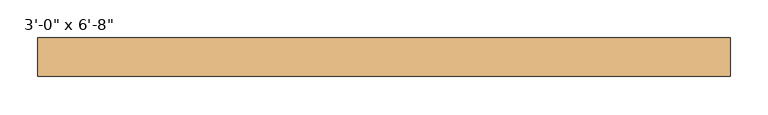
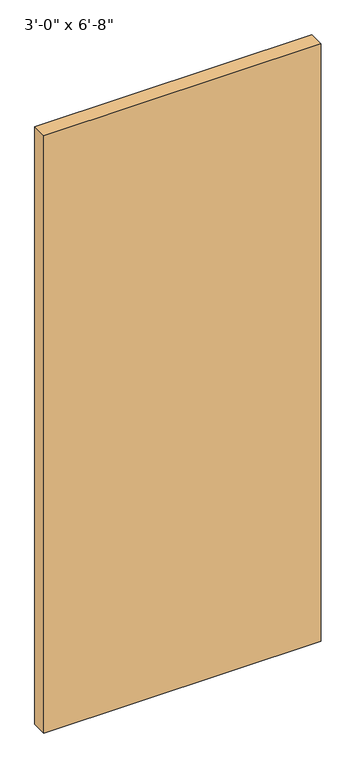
"""IFC4 building model written with IfcOpenShell, lengths in millimetres: door geometry."""

import ifcopenshell
import ifcopenshell.guid

model = None  # the IFC model being written
_history = None  # IfcOwnerHistory: only IFC2X3 demands one
_inside = {}  # id of a spatial element -> (the spatial element, [elements in it])
_under = {}  # id of a project, library or spatial element -> (it, [spatial elements below it])
_declared = {}  # id of a project -> (the project, [libraries it declares])
_typed = {}  # id of a type object -> (the type object, [elements of that type])
_made_of = {}  # id of a material, layer set ... -> (it, [elements and type objects made of it])


def new_model(schema):
    """Start an empty IFC model of exactly this schema.

    Asked for "IFC4X3", IfcOpenShell would pick the latest addendum, in which some entities
    have other attributes; the version numbers below select the first issue.
    IFC2X3 requires an IfcOwnerHistory on every rooted entity: one is made here for all.
    """
    global model, _history
    if schema == "IFC4X3":
        model = ifcopenshell.file(schema_version=(4, 3, 0, 0))
    else:
        model = ifcopenshell.file(schema=schema)
    _inside.clear()
    _under.clear()
    _declared.clear()
    _typed.clear()
    _made_of.clear()
    _history = None
    if model.schema == "IFC2X3":
        org = make("IfcOrganization", Name="unknown")
        user = make(
            "IfcPersonAndOrganization",
            ThePerson=make("IfcPerson", FamilyName="unknown"),
            TheOrganization=org,
        )
        app = make(
            "IfcApplication",
            ApplicationDeveloper=org,
            Version="unknown",
            ApplicationFullName="unknown",
            ApplicationIdentifier="unknown",
        )
        _history = make(
            "IfcOwnerHistory",
            OwningUser=user,
            OwningApplication=app,
            ChangeAction="ADDED",
            CreationDate=0,
        )
    return model


def make(cls, **values):
    """One entity of the class cls with the attributes given. An attribute that is None is left unset."""
    return model.create_entity(
        cls, **{name: value for name, value in values.items() if value is not None}
    )


def rooted(cls, **values):
    """An entity with a GlobalId (a new one), such as an element, a storey or a relation."""
    return make(cls, GlobalId=ifcopenshell.guid.new(), OwnerHistory=_history, **values)


def si_unit(unit_type, name, prefix=None):
    """IfcSIUnit, for example si_unit("LENGTHUNIT", "METRE", prefix="MILLI")."""
    return make("IfcSIUnit", UnitType=unit_type, Prefix=prefix, Name=name)


def assignment(units):
    """IfcUnitAssignment: the units of a project."""
    return None if units is None else make("IfcUnitAssignment", Units=units)


def point(xyz):
    """IfcCartesianPoint."""
    return None if xyz is None else make("IfcCartesianPoint", Coordinates=xyz)


def direction(xyz):
    """IfcDirection."""
    return None if xyz is None else make("IfcDirection", DirectionRatios=xyz)


def frame(location, z_axis=None, x_axis=None):
    """IfcAxis2Placement3D, a coordinate frame: its origin and axes. An axis left out is left unset."""
    return make(
        "IfcAxis2Placement3D",
        Location=point(location),
        Axis=direction(z_axis),
        RefDirection=direction(x_axis),
    )


def origin():
    """The frame at (0, 0, 0) with its axes left unset."""
    return frame((0.0, 0.0, 0.0))


def origin_with_axes():
    """The frame at (0, 0, 0) with the z axis (0, 0, 1) and the x axis (1, 0, 0) written out."""
    return frame((0.0, 0.0, 0.0), z_axis=(0.0, 0.0, 1.0), x_axis=(1.0, 0.0, 0.0))


def place(relative_to, where):
    """IfcLocalPlacement: puts the frame where relative to a parent placement (None: the world)."""
    return make(
        "IfcLocalPlacement", PlacementRelTo=relative_to, RelativePlacement=where
    )


def context(
    kind, dimensions, precision=None, world=None, true_north=None, identifier=None
):
    """IfcGeometricRepresentationContext, for example the 3D "Model" context."""
    return make(
        "IfcGeometricRepresentationContext",
        ContextIdentifier=identifier,
        ContextType=kind,
        CoordinateSpaceDimension=dimensions,
        Precision=precision,
        WorldCoordinateSystem=world,
        TrueNorth=true_north,
    )


def project(units=None, contexts=None):
    """IfcProject with its units and contexts."""
    return rooted(
        "IfcProject",
        Name="project",
        RepresentationContexts=contexts,
        UnitsInContext=assignment(units),
    )


def spatial(cls, under=None, at=None, **own):
    """A site, building, storey or space (cls), placed at a placement, below another one or the project."""
    s = rooted(cls, ObjectPlacement=at, **own)
    if under is not None:
        _under.setdefault(under.id(), (under, []))[1].append(s)
    return s


def polyline(points):
    """IfcPolyline through the points."""
    return make("IfcPolyline", Points=[point(p) for p in points])


def outline(outer, holes=None, kind="AREA"):
    """IfcArbitraryClosedProfileDef: a profile drawn as a closed curve; with holes, ...WithVoids."""
    if holes is None:
        return make("IfcArbitraryClosedProfileDef", ProfileType=kind, OuterCurve=outer)
    return make(
        "IfcArbitraryProfileDefWithVoids",
        ProfileType=kind,
        OuterCurve=outer,
        InnerCurves=holes,
    )


def extrude(swept, where, along, depth):
    """IfcExtrudedAreaSolid: the profile swept, set in the frame where, extruded along a direction by depth."""
    return make(
        "IfcExtrudedAreaSolid",
        SweptArea=swept,
        Position=where,
        ExtrudedDirection=direction(along),
        Depth=depth,
    )


def shape(context_of_items, identifier, shape_type, items):
    """IfcShapeRepresentation: the items that make up one representation, for example the "Body"."""
    return make(
        "IfcShapeRepresentation",
        ContextOfItems=context_of_items,
        RepresentationIdentifier=identifier,
        RepresentationType=shape_type,
        Items=items,
    )


def source(mapping_origin, context_of_items, identifier, shape_type, items):
    """IfcRepresentationMap: a shape defined once, which mapped items show again and again."""
    return make(
        "IfcRepresentationMap",
        MappingOrigin=mapping_origin,
        MappedRepresentation=shape(context_of_items, identifier, shape_type, items),
    )


def transform(
    local_origin,
    x_axis=None,
    y_axis=None,
    z_axis=None,
    scale=None,
    scale2=None,
    scale3=None,
    uniform=True,
):
    """IfcCartesianTransformationOperator3D, or its non-uniform kind. x_axis, y_axis, z_axis: its Axis1, 2, 3."""
    if uniform:
        return make(
            "IfcCartesianTransformationOperator3D",
            Axis1=direction(x_axis),
            Axis2=direction(y_axis),
            LocalOrigin=point(local_origin),
            Scale=scale,
            Axis3=direction(z_axis),
        )
    return make(
        "IfcCartesianTransformationOperator3DnonUniform",
        Axis1=direction(x_axis),
        Axis2=direction(y_axis),
        LocalOrigin=point(local_origin),
        Scale=scale,
        Axis3=direction(z_axis),
        Scale2=scale2,
        Scale3=scale3,
    )


def mapped(mapping_source, mapping_target):
    """IfcMappedItem: shows the shape of a source again, moved by a transform."""
    return make(
        "IfcMappedItem", MappingSource=mapping_source, MappingTarget=mapping_target
    )


def made_of(thing, what):
    """Note that an element or type object is made of a material, layer set ...; save() writes the relation."""
    if what is not None:
        _made_of.setdefault(what.id(), (what, []))[1].append(thing)
    return thing


def element(
    cls,
    number,
    at=None,
    inside=None,
    cuts=None,
    type_object=None,
    material=None,
    context=None,
    identifier="Body",
    shape_type=None,
    held_by="IfcProductDefinitionShape",
    body=None,
    shapes=None,
    **own,
):
    """One element of the class cls, such as IfcWall. Its Tag is "e" and its number.

    at: its placement. inside: the storey or other place that contains it. cuts: it is an
    opening in that element (IfcRelVoidsElement). A single representation is given by context,
    identifier, shape_type and body (its items); several are given by shapes. held_by: the class
    of the entity that holds the representations. save() writes the other relations.
    """
    e = rooted(cls, Tag="e%d" % number, ObjectPlacement=at, **own)
    if body is not None:
        shapes = [shape(context, identifier, shape_type, body)]
    if shapes is not None:
        e.Representation = make(held_by, Representations=shapes)
    if inside is not None:
        _inside.setdefault(inside.id(), (inside, []))[1].append(e)
    if cuts is not None:
        rooted(
            "IfcRelVoidsElement", RelatingBuildingElement=cuts, RelatedOpeningElement=e
        )
    if type_object is not None:
        _typed.setdefault(type_object.id(), (type_object, []))[1].append(e)
    return made_of(e, material)


def aggregate(whole, parts):
    """IfcRelAggregates: a whole, such as a stair, and the parts it consists of."""
    return rooted("IfcRelAggregates", RelatingObject=whole, RelatedObjects=parts)


def save(model, path):
    """Write the relations noted so far, then the file.

    IfcRelAggregates (storeys below a building ...), IfcRelContainedInSpatialStructure (elements
    in a storey), IfcRelDefinesByType, IfcRelAssociatesMaterial and IfcRelDeclares: one each for
    every whole, place, type object, material and project.
    """
    for whole, parts in _under.values():
        aggregate(whole, parts)
    for where, things in _inside.values():
        rooted(
            "IfcRelContainedInSpatialStructure",
            RelatedElements=things,
            RelatingStructure=where,
        )
    for kind, things in _typed.values():
        rooted("IfcRelDefinesByType", RelatedObjects=things, RelatingType=kind)
    for what, things in _made_of.values():
        rooted("IfcRelAssociatesMaterial", RelatedObjects=things, RelatingMaterial=what)
    for by, libraries in _declared.values():
        rooted("IfcRelDeclares", RelatingContext=by, RelatedDefinitions=libraries)
    model.write(path)


def door_12e38b37(model_context):
    return source(origin(), model_context, "Body", "SweptSolid", [
        extrude(outline(polyline([(457.5, -95.05), (457.5, -146.05), (-457.5, -146.05), (-457.5, -95.05), (457.5, -95.05)])), origin_with_axes(), (0.0, 0.0, 1.0), 2082.8),
    ])


if __name__ == "__main__":
    model = new_model("IFC4")
    model_context = context("Model", 3, world=origin())
    ifc_project = project(units=[si_unit("LENGTHUNIT", "METRE", prefix="MILLI")], contexts=[model_context])
    site = spatial("IfcSite", under=ifc_project)
    building = spatial("IfcBuilding", under=site)
    placement = place(None, origin())
    door_shape = door_12e38b37(model_context)
    element("IfcDoor", 1, ObjectType="Planitar - Single Door_Flush Panel : 3'-0\" x 6'-8\"", at=placement, inside=building, context=model_context, shape_type="MappedRepresentation", body=[
        mapped(door_shape, transform((0.0, 0.0, 0.0), x_axis=(1.0, 0.0, 0.0), y_axis=(0.0, 1.0, 0.0), z_axis=(0.0, 0.0, 1.0))),
    ])
    save(model, "model.ifc")
